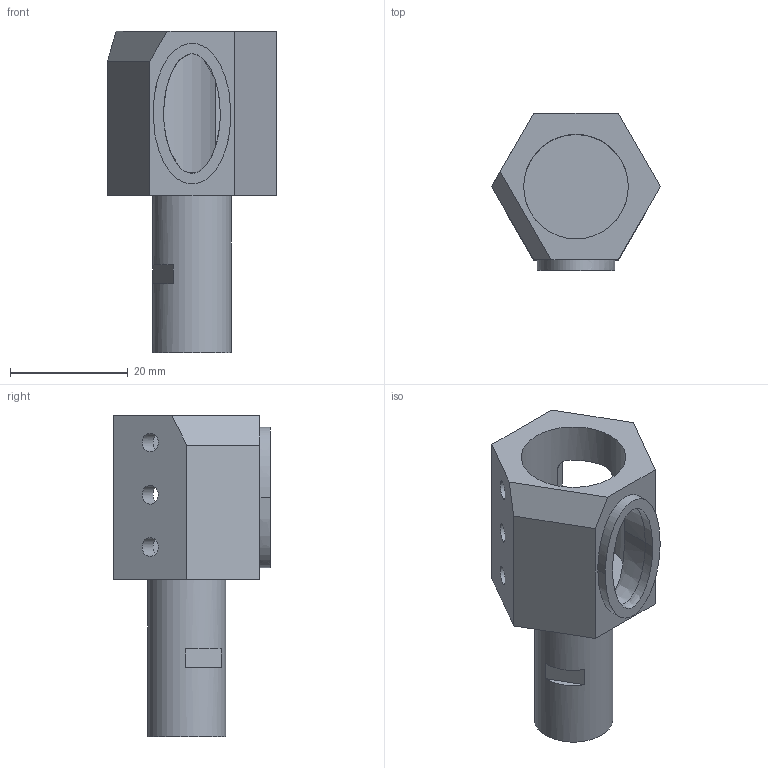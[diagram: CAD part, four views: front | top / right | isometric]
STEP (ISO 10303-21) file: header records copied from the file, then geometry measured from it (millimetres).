
FILE_DESCRIPTION((''),'2;1');
FILE_NAME('G:\advanced cnc class\Mastercam solids\STEP files\Week 2 exercise solid.stp','2024-02-05T10:32:36',(''),(''),'STEP Write','Mastercam 2021 ... CNC Software, Inc.','');
FILE_SCHEMA(('AUTOMOTIVE_DESIGN'));
Length unit declared in the file: inch
Products named in the file (1): None
Bounding box: 28.74 x 26.67 x 54.61 mm (x, y, z)
Volume: 11525.5 mm3; surface area: 6002 mm2
Topology: 1 solids, 1 shells, 44 faces, 117 edges, 77 vertices
Faces by surface type: plane 24, cylinder 14, bspline 6
Full cylindrical faces by diameter (mm): 3.175 x3, 13.335 x1, 17.78 x1
Entity records: 2424 total; most frequent: CARTESIAN_POINT 1339, ORIENTED_EDGE 210, DIRECTION 185, EDGE_CURVE 105, VERTEX_POINT 71, AXIS2_PLACEMENT_3D 65, EDGE_LOOP 62, VECTOR 55
